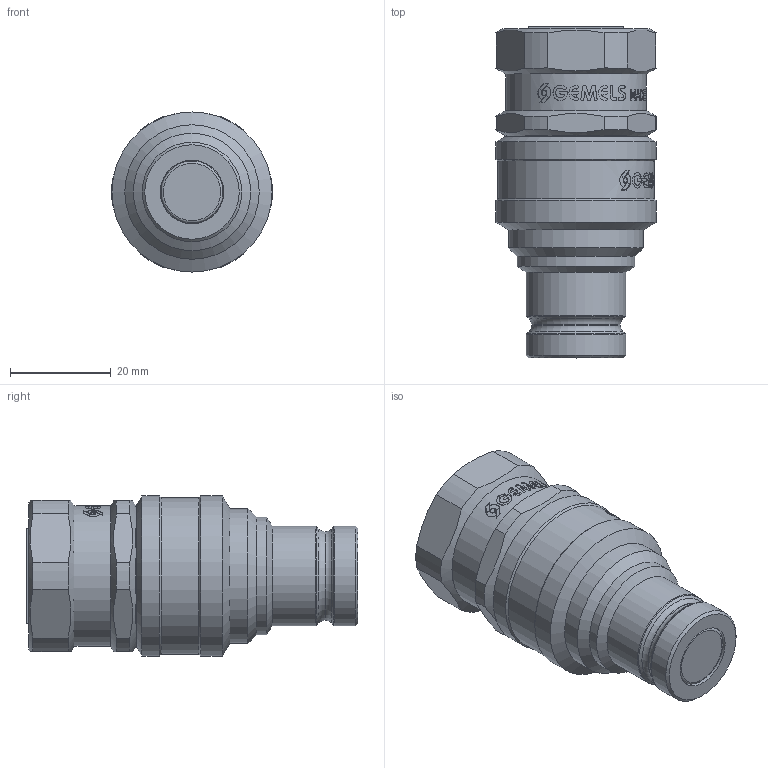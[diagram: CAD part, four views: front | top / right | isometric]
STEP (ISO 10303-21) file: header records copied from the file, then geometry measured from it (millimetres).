
FILE_DESCRIPTION(/* description */ (''),/* implementation_level */ '2;1');
FILE_NAME(/* name */ 'NC05G020000.stp',/* time_stamp */ '2026-03-18T09:32:19+01:00',/* author */ ('nicholas.facchinetti'),/* organization */ (''),/* preprocessor_version */ 'ST-DEVELOPER v20',/* originating_system */ 'Autodesk Inventor 2024',/* authorisation */ '');
FILE_SCHEMA (('CONFIG_CONTROL_DESIGN'));
Length unit declared in the file: millimetre
Products named in the file (1): Parte1
Bounding box: 31.95 x 65.9 x 31.8 mm (x, y, z)
Volume: 37209.6 mm3; surface area: 8668.5 mm2
Topology: 1 solids, 5 shells, 1103 faces, 3130 edges, 2077 vertices
Faces by surface type: bspline 729, plane 266, cylinder 83, cone 15, torus 10
Full cylindrical faces by diameter (mm): 12.55 x1, 12.65 x1, 14.95 x1, 17.65 x1, 19.75 x2, 23.3 x1, 25.052 x3, 26 x1, 26.3 x1, 26.35 x1, 26.7 x1, 28 x1, 31.1 x1, 31.8 x2
Entity records: 48044 total; most frequent: CARTESIAN_POINT 23066, ORIENTED_EDGE 6260, EDGE_CURVE 3130, DIRECTION 2718, VERTEX_POINT 2077, B_SPLINE_CURVE_WITH_KNOTS 1512, LINE 1212, VECTOR 1212
